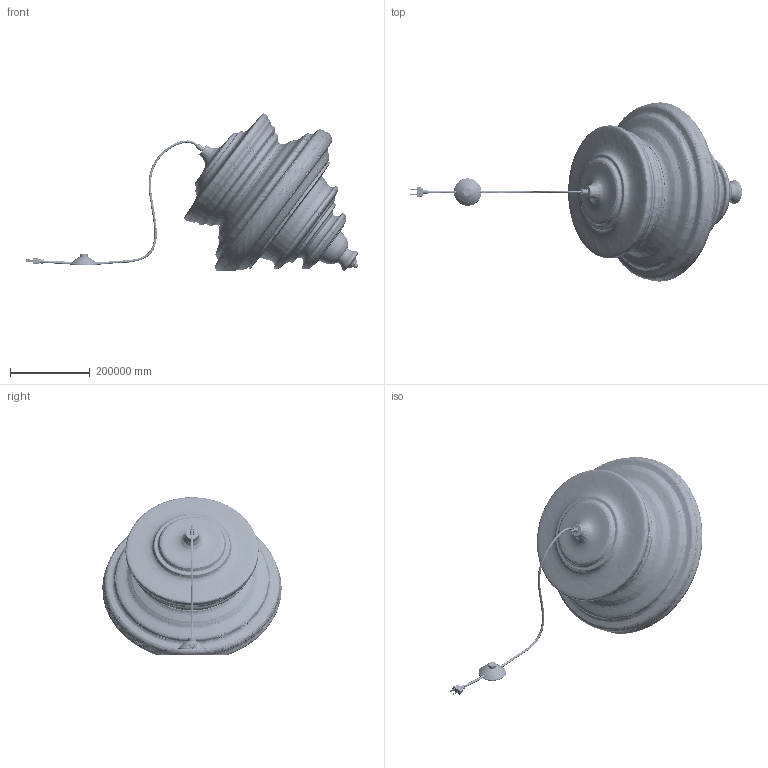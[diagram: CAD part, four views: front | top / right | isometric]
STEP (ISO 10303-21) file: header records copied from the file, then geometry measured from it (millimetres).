
FILE_DESCRIPTION(/* description */ (''),/* implementation_level */ '2;1');
FILE_NAME(/* name */ 'La Scala Floor UL',/* time_stamp */ '2019-02-04T09:15:52+01:00',/* author */ (''),/* organization */ (''),/* preprocessor_version */ 'ST-DEVELOPER v15',/* originating_system */ '',/* authorisation */ '');
FILE_SCHEMA (('AUTOMOTIVE_DESIGN'));
Products named in the file (4): Document; 99-004364; 99-004377; 99-004376
Assembly tree (3 placements, depth 2):
  Document
    99-004364
    99-004377
    99-004376
Bounding box: 833221.09 x 450004.52 x 394706.66 mm (x, y, z)
Volume: 2144263271625496.2 mm3; surface area: 1298915217652 mm2
Topology: 10 solids, 10 shells, 2689 faces, 5569 edges, 2899 vertices
Faces by surface type: bspline 2641, plane 48
Entity records: 92141 total; most frequent: CARTESIAN_POINT 63709, ORIENTED_EDGE 11122, EDGE_CURVE 5561, VERTEX_POINT 2899, EDGE_LOOP 2712, ADVANCED_FACE 2689, FACE_OUTER_BOUND 2689, B_SPLINE_CURVE_WITH_KNOTS 395
